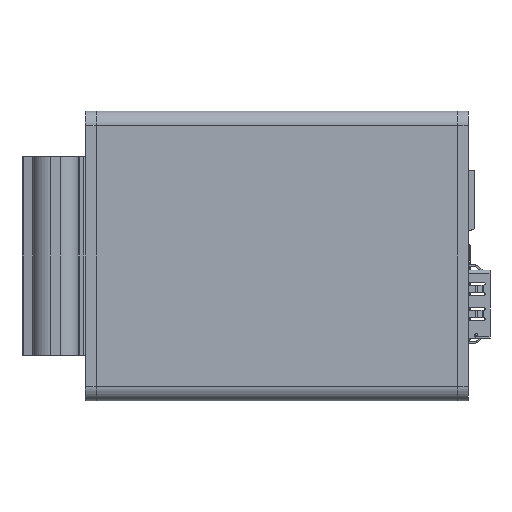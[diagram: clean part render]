
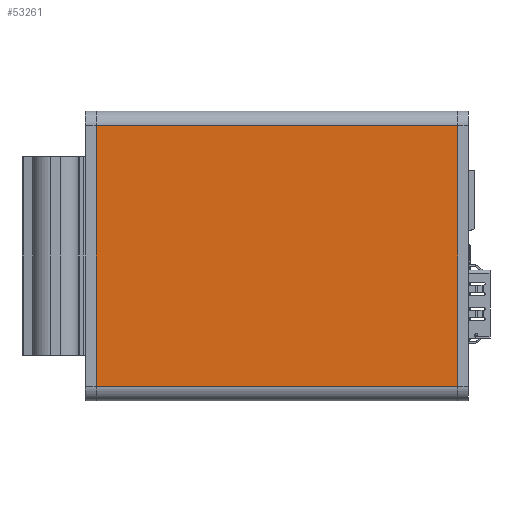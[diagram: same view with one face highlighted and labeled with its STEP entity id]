
A CAD part, left-side view. The second image highlights one B-rep face of the part: STEP entity #53261.
In plain terms, the highlighted planar face has unit normal (-1, 0, 0).
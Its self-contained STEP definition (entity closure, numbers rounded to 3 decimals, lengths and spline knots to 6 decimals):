
#4786=LINE('',#85243,#10421);
#4855=LINE('',#85532,#10490);
#4896=LINE('',#85689,#10531);
#4897=LINE('',#85691,#10532);
#10421=VECTOR('',#67106,1.);
#10490=VECTOR('',#67331,1.);
#10531=VECTOR('',#67460,1.);
#10532=VECTOR('',#67463,1.);
#21190=ORIENTED_EDGE('',*,*,#32953,.F.);
#21191=ORIENTED_EDGE('',*,*,#32726,.T.);
#21192=ORIENTED_EDGE('',*,*,#32952,.T.);
#21193=ORIENTED_EDGE('',*,*,#32872,.F.);
#32726=EDGE_CURVE('',#39195,#39194,#4786,.T.);
#32872=EDGE_CURVE('',#39336,#39337,#4855,.T.);
#32952=EDGE_CURVE('',#39194,#39337,#4896,.T.);
#32953=EDGE_CURVE('',#39195,#39336,#4897,.T.);
#39194=VERTEX_POINT('',#85242);
#39195=VERTEX_POINT('',#85244);
#39336=VERTEX_POINT('',#85531);
#39337=VERTEX_POINT('',#85533);
#45251=EDGE_LOOP('',(#21190,#21191,#21192,#21193));
#48450=FACE_BOUND('',#45251,.T.);
#51057=PLANE('',#57060);
#53261=ADVANCED_FACE('',(#48450),#51057,.T.);
#57060=AXIS2_PLACEMENT_3D('',#85690,#67461,#67462);
#67106=DIRECTION('',(0.,0.,-1.));
#67331=DIRECTION('',(0.,0.,-1.));
#67460=DIRECTION('',(0.,-1.,0.));
#67461=DIRECTION('',(-1.,0.,0.));
#67462=DIRECTION('',(0.,0.,1.));
#67463=DIRECTION('',(0.,-1.,0.));
#85242=CARTESIAN_POINT('',(-0.0261,0.0502,-0.0181));
#85243=CARTESIAN_POINT('',(-0.0261,0.0502,0.));
#85244=CARTESIAN_POINT('',(-0.0261,0.0502,0.0181));
#85531=CARTESIAN_POINT('',(-0.0261,0.,0.0181));
#85532=CARTESIAN_POINT('',(-0.0261,0.,0.));
#85533=CARTESIAN_POINT('',(-0.0261,0.,-0.0181));
#85689=CARTESIAN_POINT('',(-0.0261,0.050202,-0.0181));
#85690=CARTESIAN_POINT('',(-0.0261,0.050202,0.));
#85691=CARTESIAN_POINT('',(-0.0261,0.050202,0.0181));
